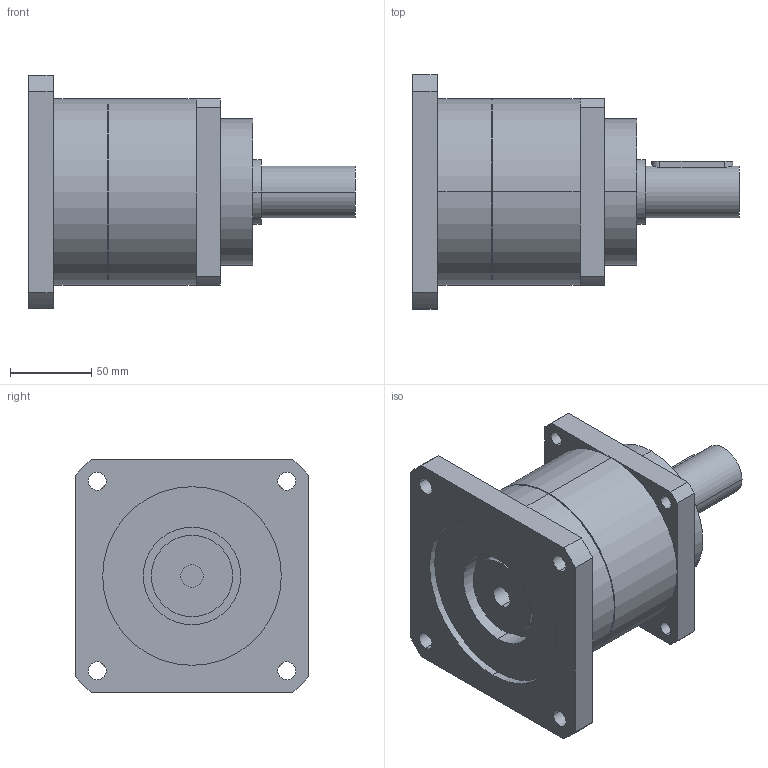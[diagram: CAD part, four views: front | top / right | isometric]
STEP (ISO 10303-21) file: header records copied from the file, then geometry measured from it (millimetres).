
FILE_DESCRIPTION(('CoCreate Modeling STEP Export'),'2;1');
FILE_NAME('GPT120_ig-3-4-5-7-10_32_B5A_14_P22.stp','2015-02-04T16:07:31',(''),(''),'CoCreate Modeling STEP processor for AP214 (Solid Model)','CoCreate Modeling 16.00C 25-Feb-2009 (C) Parametric Technology GmbH','');
FILE_SCHEMA(('AUTOMOTIVE_DESIGN { 1 0 10303 214 1 1 1 1 }'));
Length unit declared in the file: millimetre
Products named in the file (2): GPT120_ig-3-4-5-7-10_32_B5A_14_P22
Assembly tree (1 placements, depth 2):
  GPT120_ig-3-4-5-7-10_32_B5A_14_P22
    GPT120_ig-3-4-5-7-10_32_B5A_14_P22
Bounding box: 201 x 144 x 144 mm (x, y, z)
Volume: 1525932.6 mm3; surface area: 115773.7 mm2
Topology: 1 solids, 1 shells, 77 faces, 205 edges, 140 vertices
Faces by surface type: cylinder 46, plane 27, cone 4
Entity records: 2573 total; most frequent: CARTESIAN_POINT 760, ORIENTED_EDGE 410, DIRECTION 320, EDGE_CURVE 205, VERTEX_POINT 140, AXIS2_PLACEMENT_3D 118, EDGE_LOOP 103, VECTOR 84
